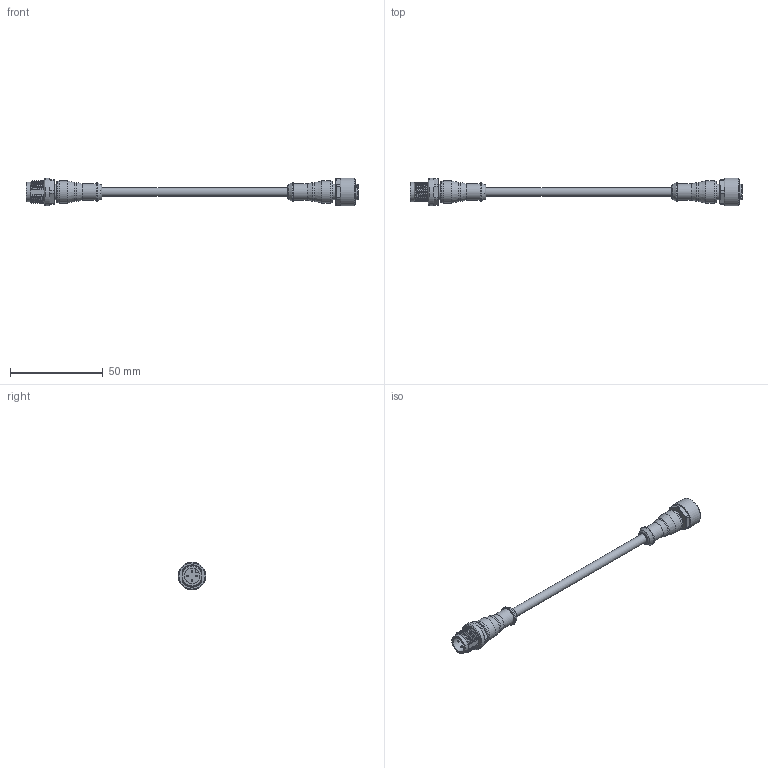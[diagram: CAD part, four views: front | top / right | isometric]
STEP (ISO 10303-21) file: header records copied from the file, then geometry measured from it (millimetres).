
FILE_DESCRIPTION(/* description */ (''),/* implementation_level */ '2;1');
FILE_NAME(/* name */ 'K54G00.K.stp',/* time_stamp */ '2020-02-10T16:15:23+01:00',/* author */ (''),/* organization */ (''),/* preprocessor_version */ 'ST-DEVELOPER v16',/* originating_system */ 'SIEMENS PLM Software NX 11.0',/* authorisation */ '');
FILE_SCHEMA (('AP203_CONFIGURATION_CONTROLLED_3D_DESIGN_OF_MECHANICAL_PARTS_AND_ASSEMBLIES_MIM_LF { 1 0 10303 403 2 1 2}'));
Length unit declared in the file: millimetre
Products named in the file (1): hi2n454CC6D1h6uf
Bounding box: 178.5 x 15 x 15 mm (x, y, z)
Volume: 8790 mm3; surface area: 6038.1 mm2
Topology: 1 solids, 1 shells, 196 faces, 464 edges, 293 vertices
Faces by surface type: cylinder 70, plane 57, bspline 36, cone 27, torus 6
Full cylindrical faces by diameter (mm): 1 x4, 1.2 x5, 4.8 x1, 8.2 x1, 8.3 x1, 8.4 x1, 8.5 x1, 8.8 x2, 10.2 x2, 10.5 x3, 11 x1, 12 x2, 15 x2
Entity records: 15931 total; most frequent: CARTESIAN_POINT 11876, ORIENTED_EDGE 824, DIRECTION 695, EDGE_CURVE 412, VERTEX_POINT 288, AXIS2_PLACEMENT_3D 279, EDGE_LOOP 266, ADVANCED_FACE 196
